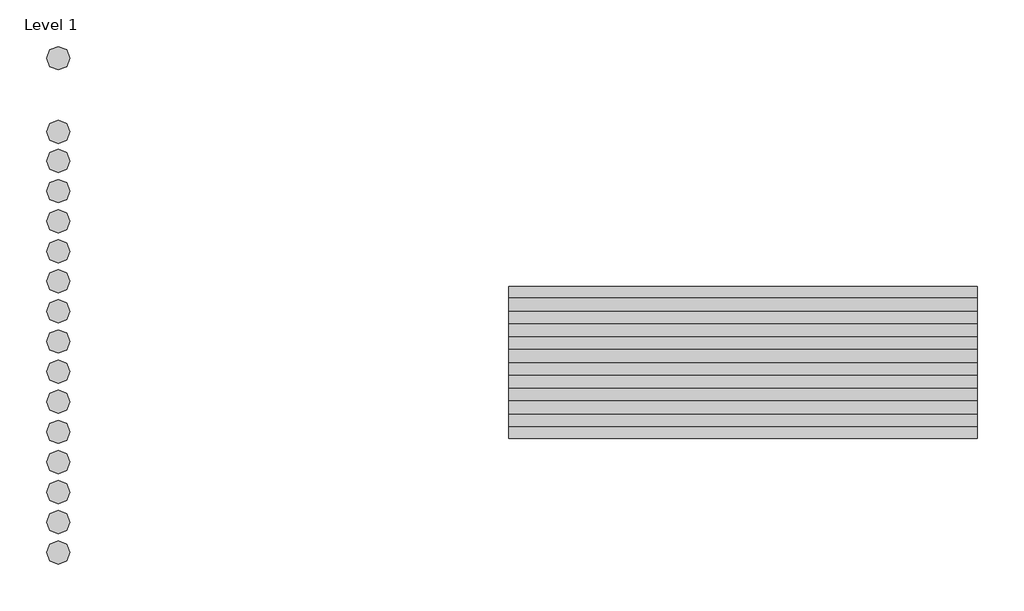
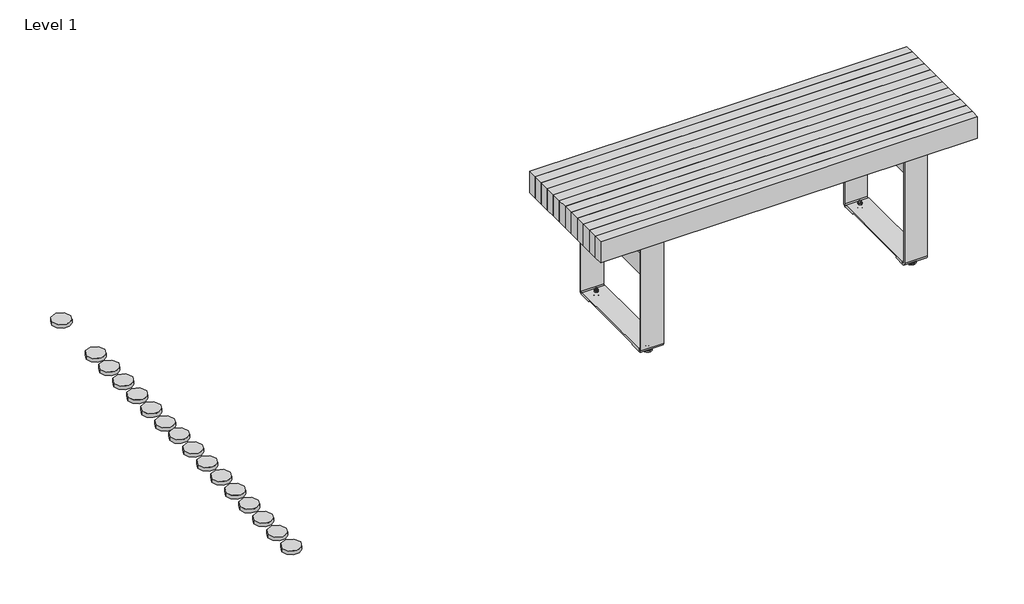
# One storey: 16 proxies, 1 furniture element.
"""IFC4 building model written with IfcOpenShell, lengths in millimetres."""

from ifc_helpers import new_model, si_unit, origin, place, context, project, spatial, transform, mapped, element, save
from components import materialmodel_materialmodel_58669afb, furniture_c40fb7c0

model = new_model("IFC4")

# Units and contexts
model_context = context("Model", 3, world=origin())
ifc_project = project(units=[si_unit("LENGTHUNIT", "METRE", prefix="MILLI")], contexts=[model_context])

# Site, building, storey
site = spatial("IfcSite", under=ifc_project)
building = spatial("IfcBuilding", under=site)
storey = spatial("IfcBuildingStorey", under=building, Name="Level 1", Elevation=0.0)

# Proxies
placement = place(None, origin())
materialmodel_materialmodel_shape = materialmodel_materialmodel_58669afb(model_context)
element("IfcBuildingElementProxy", 1, Name="MaterialModel : MaterialModel", ObjectType="MaterialModel : MaterialModel", at=placement, inside=storey, context=model_context, shape_type="MappedRepresentation", body=[
    mapped(materialmodel_materialmodel_shape, transform((-10268.5516042, 2363.9940206, 0.0), x_axis=(1.0, 0.0, 0.0), y_axis=(0.0, 1.0, 0.0), z_axis=(0.0, 0.0, 1.0))),
])
element("IfcBuildingElementProxy", 2, Name="MaterialModel : MaterialModel", ObjectType="MaterialModel : MaterialModel", at=placement, inside=storey, context=model_context, shape_type="MappedRepresentation", body=[
    mapped(materialmodel_materialmodel_shape, transform((-10268.5516042, 2239.1712203, 0.0), x_axis=(1.0, 0.0, 0.0), y_axis=(0.0, 1.0, 0.0), z_axis=(0.0, 0.0, 1.0))),
])
element("IfcBuildingElementProxy", 3, Name="MaterialModel : MaterialModel", ObjectType="MaterialModel : MaterialModel", at=placement, inside=storey, context=model_context, shape_type="MappedRepresentation", body=[
    mapped(materialmodel_materialmodel_shape, transform((-10268.5516042, 2110.436676, 0.0), x_axis=(1.0, 0.0, 0.0), y_axis=(0.0, 1.0, 0.0), z_axis=(0.0, 0.0, 1.0))),
])
element("IfcBuildingElementProxy", 4, Name="MaterialModel : MaterialModel", ObjectType="MaterialModel : MaterialModel", at=placement, inside=storey, context=model_context, shape_type="MappedRepresentation", body=[
    mapped(materialmodel_materialmodel_shape, transform((-10268.5516042, 1981.7021316, 0.0), x_axis=(1.0, 0.0, 0.0), y_axis=(0.0, 1.0, 0.0), z_axis=(0.0, 0.0, 1.0))),
])
element("IfcBuildingElementProxy", 5, Name="MaterialModel : MaterialModel", ObjectType="MaterialModel : MaterialModel", at=placement, inside=storey, context=model_context, shape_type="MappedRepresentation", body=[
    mapped(materialmodel_materialmodel_shape, transform((-10268.5516042, 1852.9675873, 0.0), x_axis=(1.0, 0.0, 0.0), y_axis=(0.0, 1.0, 0.0), z_axis=(0.0, 0.0, 1.0))),
])
element("IfcBuildingElementProxy", 6, Name="MaterialModel : MaterialModel", ObjectType="MaterialModel : MaterialModel", at=placement, inside=storey, context=model_context, shape_type="MappedRepresentation", body=[
    mapped(materialmodel_materialmodel_shape, transform((-10268.5516042, 1725.2876659, 0.0), x_axis=(1.0, 0.0, 0.0), y_axis=(0.0, 1.0, 0.0), z_axis=(0.0, 0.0, 1.0))),
])
element("IfcBuildingElementProxy", 7, Name="MaterialModel : MaterialModel", ObjectType="MaterialModel : MaterialModel", at=placement, inside=storey, context=model_context, shape_type="MappedRepresentation", body=[
    mapped(materialmodel_materialmodel_shape, transform((-10268.5516042, 1596.5531216, 10.0), x_axis=(1.0, 0.0, 0.0), y_axis=(0.0, 1.0, 0.0), z_axis=(0.0, 0.0, 1.0))),
])
element("IfcBuildingElementProxy", 8, Name="MaterialModel : MaterialModel", ObjectType="MaterialModel : MaterialModel", at=placement, inside=storey, context=model_context, shape_type="MappedRepresentation", body=[
    mapped(materialmodel_materialmodel_shape, transform((-10268.5516042, 1467.8185772, 10.0), x_axis=(1.0, 0.0, 0.0), y_axis=(0.0, 1.0, 0.0), z_axis=(0.0, 0.0, 1.0))),
])
element("IfcBuildingElementProxy", 9, Name="MaterialModel : MaterialModel", ObjectType="MaterialModel : MaterialModel", at=placement, inside=storey, context=model_context, shape_type="MappedRepresentation", body=[
    mapped(materialmodel_materialmodel_shape, transform((-10268.5516042, 1339.0840329, 10.0), x_axis=(1.0, 0.0, 0.0), y_axis=(0.0, 1.0, 0.0), z_axis=(0.0, 0.0, 1.0))),
])
element("IfcBuildingElementProxy", 10, Name="MaterialModel : MaterialModel", ObjectType="MaterialModel : MaterialModel", at=placement, inside=storey, context=model_context, shape_type="MappedRepresentation", body=[
    mapped(materialmodel_materialmodel_shape, transform((-10268.5516042, 1210.3494885, 10.0), x_axis=(1.0, 0.0, 0.0), y_axis=(0.0, 1.0, 0.0), z_axis=(0.0, 0.0, 1.0))),
])
element("IfcBuildingElementProxy", 11, Name="MaterialModel : MaterialModel", ObjectType="MaterialModel : MaterialModel", at=placement, inside=storey, context=model_context, shape_type="MappedRepresentation", body=[
    mapped(materialmodel_materialmodel_shape, transform((-10268.5516042, 1081.6149442, 10.0), x_axis=(1.0, 0.0, 0.0), y_axis=(0.0, 1.0, 0.0), z_axis=(0.0, 0.0, 1.0))),
])
element("IfcBuildingElementProxy", 12, Name="MaterialModel : MaterialModel", ObjectType="MaterialModel : MaterialModel", at=placement, inside=storey, context=model_context, shape_type="MappedRepresentation", body=[
    mapped(materialmodel_materialmodel_shape, transform((-10268.5516042, 952.8803998, 10.0), x_axis=(1.0, 0.0, 0.0), y_axis=(0.0, 1.0, 0.0), z_axis=(0.0, 0.0, 1.0))),
])
element("IfcBuildingElementProxy", 13, Name="MaterialModel : MaterialModel", ObjectType="MaterialModel : MaterialModel", at=placement, inside=storey, context=model_context, shape_type="MappedRepresentation", body=[
    mapped(materialmodel_materialmodel_shape, transform((-10268.5516042, 824.1458555, 10.0), x_axis=(1.0, 0.0, 0.0), y_axis=(0.0, 1.0, 0.0), z_axis=(0.0, 0.0, 1.0))),
])
element("IfcBuildingElementProxy", 14, Name="MaterialModel : MaterialModel", ObjectType="MaterialModel : MaterialModel", at=placement, inside=storey, context=model_context, shape_type="MappedRepresentation", body=[
    mapped(materialmodel_materialmodel_shape, transform((-10268.5516042, 695.4113111, 10.0), x_axis=(1.0, 0.0, 0.0), y_axis=(0.0, 1.0, 0.0), z_axis=(0.0, 0.0, 1.0))),
])
element("IfcBuildingElementProxy", 15, Name="MaterialModel : MaterialModel", ObjectType="MaterialModel : MaterialModel", at=placement, inside=storey, context=model_context, shape_type="MappedRepresentation", body=[
    mapped(materialmodel_materialmodel_shape, transform((-10268.5516042, 566.6767668, 10.0), x_axis=(1.0, 0.0, 0.0), y_axis=(0.0, 1.0, 0.0), z_axis=(0.0, 0.0, 1.0))),
])
element("IfcBuildingElementProxy", 16, Name="MaterialModel : MaterialModel", ObjectType="MaterialModel : MaterialModel", at=placement, inside=storey, context=model_context, shape_type="MappedRepresentation", body=[
    mapped(materialmodel_materialmodel_shape, transform((-10268.5516042, 2678.0371084, 0.0), x_axis=(1.0, 0.0, 0.0), y_axis=(0.0, 1.0, 0.0), z_axis=(0.0, 0.0, 1.0))),
])

# Furniture
furniture_shape = furniture_c40fb7c0(model_context)
element("IfcFurniture", 17, ObjectType="Roros Produkter - Femunden - Table - 34370 : Roros Produkter - Femunden - Table - 34370", at=placement, inside=storey, context=model_context, shape_type="MappedRepresentation", body=[
    mapped(furniture_shape, transform((-7344.7028076, 1378.2804069, 0.0), x_axis=(1.0, 0.0, 0.0), y_axis=(0.0, 1.0, 0.0), z_axis=(0.0, 0.0, 1.0))),
])

save(model, "model.ifc")
